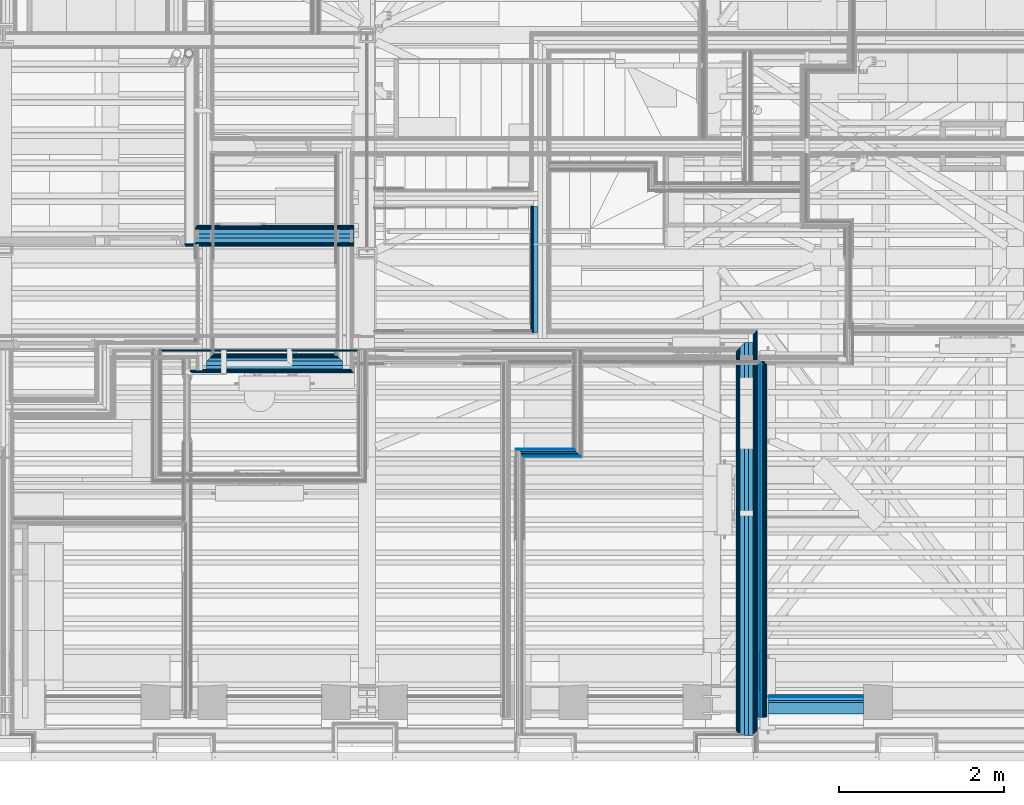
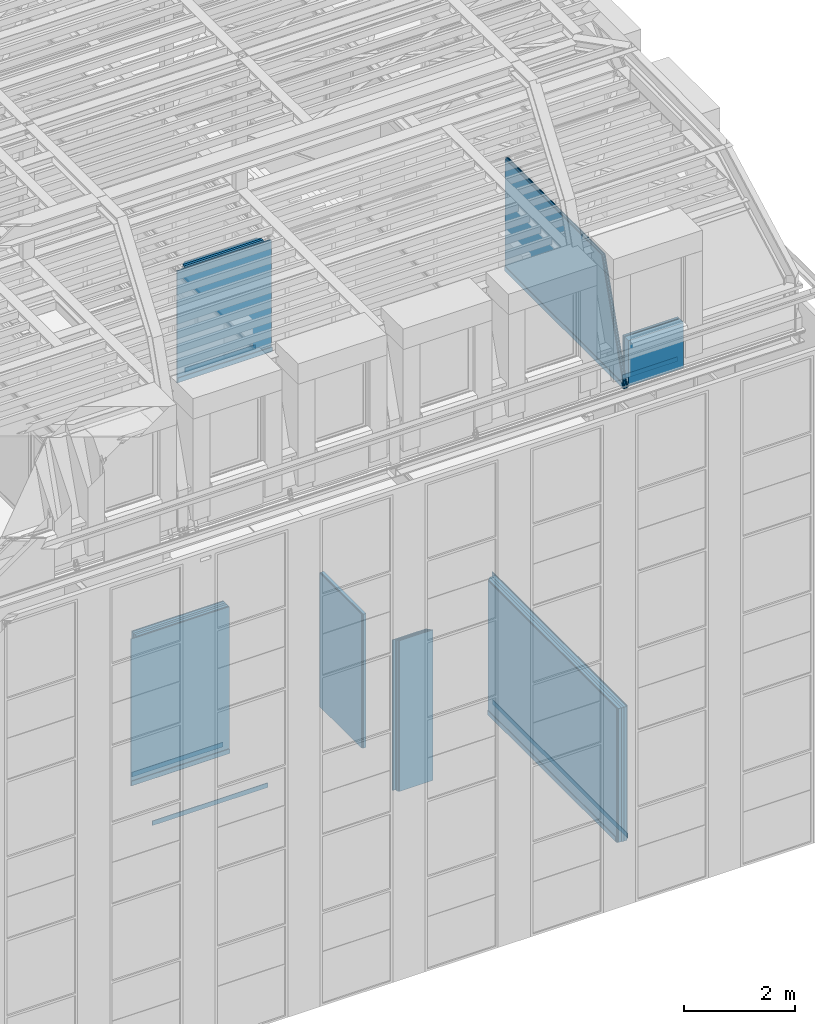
# One storey, part 51 of 183: 48 building element parts, 8 elements without a shape of their own.
"""IFC2X3 building model written with IfcOpenShell, lengths in metres."""

from ifc_helpers import new_model, entity, si_unit, converted_unit, derived_unit, money_unit, direction, frame, frame_2d, origin_with_axes, place, context, subcontext, project, spatial, polyline, rectangle, outline, extrude, clip, halfspace, material, type_object, element, aggregate, save


model = new_model("IFC2X3")

# Units and contexts
model_context = context("Model", 3, precision=1e-05, world=origin_with_axes(), true_north=direction((0.0, 1.0)))
body_context = subcontext(model_context, "Body", "Model", "MODEL_VIEW", scale=1.0)
ifc_project = project(units=[si_unit("LENGTHUNIT", "METRE"), si_unit("AREAUNIT", "SQUARE_METRE"), si_unit("VOLUMEUNIT", "CUBIC_METRE"), si_unit("ABSORBEDDOSEUNIT", "GRAY"), si_unit("AMOUNTOFSUBSTANCEUNIT", "MOLE"), si_unit("DOSEEQUIVALENTUNIT", "SIEVERT"), si_unit("ELECTRICCAPACITANCEUNIT", "FARAD"), si_unit("ELECTRICCHARGEUNIT", "COULOMB"), si_unit("ELECTRICCONDUCTANCEUNIT", "SIEMENS"), si_unit("ELECTRICCURRENTUNIT", "AMPERE"), si_unit("ELECTRICRESISTANCEUNIT", "OHM"), si_unit("ELECTRICVOLTAGEUNIT", "VOLT"), si_unit("ENERGYUNIT", "JOULE"), si_unit("FORCEUNIT", "NEWTON"), si_unit("FREQUENCYUNIT", "HERTZ"), si_unit("ILLUMINANCEUNIT", "LUX"), si_unit("INDUCTANCEUNIT", "HENRY"), si_unit("LUMINOUSFLUXUNIT", "LUMEN"), si_unit("LUMINOUSINTENSITYUNIT", "CANDELA"), si_unit("MAGNETICFLUXDENSITYUNIT", "TESLA"), si_unit("MAGNETICFLUXUNIT", "WEBER"), si_unit("MASSUNIT", "GRAM"), converted_unit("PLANEANGLEUNIT", "degree", entity("IfcReal", 0.0174532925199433), si_unit("PLANEANGLEUNIT", "RADIAN"), dimensions=[0, 0, 0, 0, 0, 0, 0]), si_unit("POWERUNIT", "WATT"), si_unit("PRESSUREUNIT", "PASCAL"), si_unit("RADIOACTIVITYUNIT", "BECQUEREL"), si_unit("SOLIDANGLEUNIT", "STERADIAN"), si_unit("THERMODYNAMICTEMPERATUREUNIT", "KELVIN"), si_unit("TIMEUNIT", "SECOND"), derived_unit("ACCELERATIONUNIT", [(si_unit("LENGTHUNIT", "METRE"), 1), (si_unit("TIMEUNIT", "SECOND"), -2)]), derived_unit("ANGULARVELOCITYUNIT", [(converted_unit("PLANEANGLEUNIT", "degree", entity("IfcReal", 0.0174532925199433), si_unit("PLANEANGLEUNIT", "RADIAN"), dimensions=[0, 0, 0, 0, 0, 0, 0]), 1), (si_unit("TIMEUNIT", "SECOND"), -1)]), derived_unit("CURVATUREUNIT", [(converted_unit("PLANEANGLEUNIT", "degree", entity("IfcReal", 0.0174532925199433), si_unit("PLANEANGLEUNIT", "RADIAN"), dimensions=[0, 0, 0, 0, 0, 0, 0]), 1), (si_unit("LENGTHUNIT", "METRE"), -1)]), derived_unit("DYNAMICVISCOSITYUNIT", [(si_unit("PRESSUREUNIT", "PASCAL"), 1), (si_unit("TIMEUNIT", "SECOND"), 1)]), derived_unit("HEATFLUXDENSITYUNIT", [(si_unit("POWERUNIT", "WATT"), 1), (si_unit("LENGTHUNIT", "METRE"), -2)]), derived_unit("HEATINGVALUEUNIT", [(si_unit("ENERGYUNIT", "JOULE"), 1), (si_unit("MASSUNIT", "GRAM"), -1)]), derived_unit("INTEGERCOUNTRATEUNIT", [(si_unit("TIMEUNIT", "SECOND"), -1)]), derived_unit("IONCONCENTRATIONUNIT", [(si_unit("MASSUNIT", "GRAM"), 1), (si_unit("VOLUMEUNIT", "CUBIC_METRE"), -1)]), derived_unit("ISOTHERMALMOISTURECAPACITYUNIT", [(si_unit("VOLUMEUNIT", "CUBIC_METRE"), 1), (si_unit("MASSUNIT", "GRAM"), -1)]), derived_unit("KINEMATICVISCOSITYUNIT", [(si_unit("AREAUNIT", "SQUARE_METRE"), 1), (si_unit("TIMEUNIT", "SECOND"), -1)]), derived_unit("LINEARFORCEUNIT", [(si_unit("FORCEUNIT", "NEWTON"), 1), (si_unit("LENGTHUNIT", "METRE"), -1)]), derived_unit("LINEARMOMENTUNIT", [(si_unit("FORCEUNIT", "NEWTON"), 1), (si_unit("LENGTHUNIT", "METRE"), -1)]), derived_unit("LINEARSTIFFNESSUNIT", [(si_unit("FORCEUNIT", "NEWTON"), 1), (si_unit("LENGTHUNIT", "METRE"), -1)]), derived_unit("LINEARVELOCITYUNIT", [(si_unit("LENGTHUNIT", "METRE"), 1), (si_unit("TIMEUNIT", "SECOND"), -1)]), derived_unit("LUMINOUSINTENSITYDISTRIBUTIONUNIT", [(si_unit("LUMINOUSINTENSITYUNIT", "CANDELA"), 1), (si_unit("LUMINOUSFLUXUNIT", "LUMEN"), -1)]), derived_unit("MASSDENSITYUNIT", [(si_unit("MASSUNIT", "GRAM"), 1), (si_unit("VOLUMEUNIT", "CUBIC_METRE"), -1)]), derived_unit("MASSFLOWRATEUNIT", [(si_unit("MASSUNIT", "GRAM"), 1), (si_unit("TIMEUNIT", "SECOND"), -1)]), derived_unit("MASSPERLENGTHUNIT", [(si_unit("MASSUNIT", "GRAM"), 1), (si_unit("LENGTHUNIT", "METRE"), -1)]), derived_unit("MODULUSOFELASTICITYUNIT", [(si_unit("FORCEUNIT", "NEWTON"), 1), (si_unit("AREAUNIT", "SQUARE_METRE"), -1)]), derived_unit("MODULUSOFLINEARSUBGRADEREACTIONUNIT", [(si_unit("FORCEUNIT", "NEWTON"), 1), (si_unit("LENGTHUNIT", "METRE"), -2)]), derived_unit("MODULUSOFROTATIONALSUBGRADEREACTIONUNIT", [(si_unit("FORCEUNIT", "NEWTON"), 1), (si_unit("LENGTHUNIT", "METRE"), 1)]), derived_unit("MODULUSOFSUBGRADEREACTIONUNIT", [(si_unit("FORCEUNIT", "NEWTON"), 1), (si_unit("VOLUMEUNIT", "CUBIC_METRE"), -1)]), derived_unit("MOISTUREDIFFUSIVITYUNIT", [(si_unit("VOLUMEUNIT", "CUBIC_METRE"), 1), (si_unit("TIMEUNIT", "SECOND"), -1)]), derived_unit("MOLECULARWEIGHTUNIT", [(si_unit("MASSUNIT", "GRAM"), 1), (si_unit("AMOUNTOFSUBSTANCEUNIT", "MOLE"), -1)]), derived_unit("PLANARFORCEUNIT", [(si_unit("FORCEUNIT", "NEWTON"), 1), (si_unit("LENGTHUNIT", "METRE"), -2)]), derived_unit("ROTATIONALFREQUENCYUNIT", [(si_unit("TIMEUNIT", "SECOND"), -1)]), derived_unit("ROTATIONALMASSUNIT", [(si_unit("MASSUNIT", "GRAM"), 1), (si_unit("LENGTHUNIT", "METRE"), 2)]), derived_unit("ROTATIONALSTIFFNESSUNIT", [(si_unit("FORCEUNIT", "NEWTON"), 1), (si_unit("LENGTHUNIT", "METRE"), 1), (converted_unit("PLANEANGLEUNIT", "degree", entity("IfcReal", 0.0174532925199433), si_unit("PLANEANGLEUNIT", "RADIAN"), dimensions=[0, 0, 0, 0, 0, 0, 0]), -1)]), derived_unit("SECTIONAREAINTEGRALUNIT", [(si_unit("LENGTHUNIT", "METRE"), 5)]), derived_unit("SECTIONMODULUSUNIT", [(si_unit("LENGTHUNIT", "METRE"), 3)]), derived_unit("SHEARMODULUSUNIT", [(si_unit("FORCEUNIT", "NEWTON"), 1), (si_unit("AREAUNIT", "SQUARE_METRE"), -1)]), derived_unit("SOUNDPOWERUNIT", [(si_unit("ENERGYUNIT", "JOULE"), 1), (si_unit("TIMEUNIT", "SECOND"), -1)]), derived_unit("SPECIFICHEATCAPACITYUNIT", [(si_unit("FORCEUNIT", "NEWTON"), 1), (si_unit("MASSUNIT", "GRAM"), -1), (si_unit("THERMODYNAMICTEMPERATUREUNIT", "KELVIN"), -1)]), derived_unit("TEMPERATUREGRADIENTUNIT", [(si_unit("THERMODYNAMICTEMPERATUREUNIT", "KELVIN"), 1), (si_unit("LENGTHUNIT", "METRE"), -1)]), derived_unit("THERMALADMITTANCEUNIT", [(si_unit("POWERUNIT", "WATT"), 1), (si_unit("AREAUNIT", "SQUARE_METRE"), -1), (si_unit("THERMODYNAMICTEMPERATUREUNIT", "KELVIN"), -1)]), derived_unit("THERMALCONDUCTANCEUNIT", [(si_unit("POWERUNIT", "WATT"), 1), (si_unit("LENGTHUNIT", "METRE"), -1), (si_unit("THERMODYNAMICTEMPERATUREUNIT", "KELVIN"), -1)]), derived_unit("THERMALEXPANSIONCOEFFICIENTUNIT", [(si_unit("THERMODYNAMICTEMPERATUREUNIT", "KELVIN"), -1)]), derived_unit("THERMALRESISTANCEUNIT", [(si_unit("AREAUNIT", "SQUARE_METRE"), 1), (si_unit("POWERUNIT", "WATT"), -1)]), derived_unit("THERMALTRANSMITTANCEUNIT", [(si_unit("POWERUNIT", "WATT"), 1), (si_unit("AREAUNIT", "SQUARE_METRE"), -1), (si_unit("THERMODYNAMICTEMPERATUREUNIT", "KELVIN"), -1)]), derived_unit("TORQUEUNIT", [(si_unit("FORCEUNIT", "NEWTON"), 1), (si_unit("LENGTHUNIT", "METRE"), 1)]), derived_unit("VAPORPERMEABILITYUNIT", [(si_unit("MASSUNIT", "GRAM"), 1), (si_unit("TIMEUNIT", "SECOND"), -1)]), derived_unit("VOLUMETRICFLOWRATEUNIT", [(si_unit("VOLUMEUNIT", "CUBIC_METRE"), 1), (si_unit("TIMEUNIT", "SECOND"), -1)]), derived_unit("WARPINGCONSTANTUNIT", [(si_unit("LENGTHUNIT", "METRE"), 6)]), derived_unit("WARPINGMOMENTUNIT", [(si_unit("FORCEUNIT", "NEWTON"), 1), (si_unit("LENGTHUNIT", "METRE"), 2)]), money_unit("GBP")], contexts=[model_context])

# Site, building, storey
site_placement = place(None, origin_with_axes())
site = spatial("IfcSite", under=ifc_project, at=site_placement, Name="Site", CompositionType="ELEMENT")
building_placement = place(site_placement, origin_with_axes())
building = spatial("IfcBuilding", under=site, at=building_placement, Name="Building01", CompositionType="ELEMENT")
storey_placement = place(building_placement, frame((0.0, 0.0, 5.15), z_axis=(0.0, 0.0, 1.0), x_axis=(1.0, 0.0, 0.0)))
storey = spatial("IfcBuildingStorey", under=building, at=storey_placement, Name="1F", CompositionType="ELEMENT", Elevation=5.15)

# Wall, building element parts
wall_type_1 = type_object("IfcWallType", Name="SHE_A-Walls_Type01c_Partywall_225mm_twin_tall", PredefinedType="NOTDEFINED")
wall_1_placement = place(storey_placement, frame((22.488, 5.068, 0.0), z_axis=(0.0, 0.0, 1.0), x_axis=(0.0, -1.0, 0.0)))
wall_1 = element("IfcWall", 1, at=wall_1_placement, inside=storey, type_object=wall_type_1, Name="1C", ObjectType="SHE_A-Walls_Type01c_Partywall_225mm_twin_tall")
ifc_material_1 = material(Name="A_BSUK_Walls_Timber")
placement_1 = place(wall_1_placement, origin_with_axes())
building_element_part_1 = element("IfcBuildingElementPart", 2, at=placement_1, material=ifc_material_1, Name="1", context=body_context, shape_type="SweptSolid", body=[
    extrude(outline(polyline([(4.72, -0.088), (0.088, -0.088), (0.103, -0.103), (4.72, -0.103), (4.72, -0.088)])), frame((0.0, 0.0, 0.015), z_axis=(0.0, 0.0, 1.0), x_axis=(1.0, 0.0, 0.0)), (0.0, 0.0, 1.0), 0.1),
])
ifc_material_2 = material(Name="A_BSUK_WallInternal_Finishes_Plasterboard")
building_element_part_2 = element("IfcBuildingElementPart", 3, at=placement_1, material=ifc_material_2, Name="2", context=body_context, shape_type="SweptSolid", body=[
    extrude(outline(polyline([(4.735, -0.073), (0.073, -0.073), (0.088, -0.088), (4.735, -0.088), (4.735, -0.073)])), origin_with_axes(), (0.0, 0.0, 1.0), 2.95),
])
building_element_part_3 = element("IfcBuildingElementPart", 4, at=placement_1, material=ifc_material_2, Name="3", context=body_context, shape_type="SweptSolid", body=[
    extrude(outline(polyline([(4.75, -0.058), (0.058, -0.058), (0.073, -0.073), (4.75, -0.073), (4.75, -0.058)])), origin_with_axes(), (0.0, 0.0, 1.0), 2.95),
])
ifc_material_3 = material(Name="Air Cavity")
building_element_part_4 = element("IfcBuildingElementPart", 5, at=placement_1, material=ifc_material_3, Name="4", context=body_context, shape_type="SweptSolid", body=[
    extrude(outline(polyline([(4.75, 0.0), (0.0, 0.0), (0.058, -0.058), (4.75, -0.058), (4.75, 0.0)])), origin_with_axes(), (0.0, 0.0, 1.0), 2.95),
])
ifc_material_4 = material(Name="A_BSUK_Insulation")
building_element_part_5 = element("IfcBuildingElementPart", 6, at=placement_1, material=ifc_material_4, Name="5", context=body_context, shape_type="SweptSolid", body=[
    extrude(rectangle(XDim=4.762, YDim=0.05, at=frame_2d((2.381, 0.025), x_axis=(-1.0, 0.0))), origin_with_axes(), (0.0, 0.0, 1.0), 2.95),
])
building_element_part_6 = element("IfcBuildingElementPart", 7, at=placement_1, material=ifc_material_3, Name="6", context=body_context, shape_type="SweptSolid", body=[
    extrude(rectangle(XDim=4.762, YDim=0.057, at=frame_2d((2.381, 0.0785), x_axis=(-1.0, 0.0))), origin_with_axes(), (0.0, 0.0, 1.0), 2.95),
])
building_element_part_7 = element("IfcBuildingElementPart", 8, at=placement_1, material=ifc_material_2, Name="7", context=body_context, shape_type="SweptSolid", body=[
    extrude(outline(polyline([(4.75, 0.122), (-0.122, 0.122), (-0.107, 0.107), (4.75, 0.107), (4.75, 0.122)])), origin_with_axes(), (0.0, 0.0, 1.0), 2.95),
])
building_element_part_8 = element("IfcBuildingElementPart", 9, at=placement_1, material=ifc_material_2, Name="8", context=body_context, shape_type="SweptSolid", body=[
    extrude(outline(polyline([(4.735, 0.137), (-0.137, 0.137), (-0.122, 0.122), (4.735, 0.122), (4.735, 0.137)])), origin_with_axes(), (0.0, 0.0, 1.0), 2.95),
])
building_element_part_9 = element("IfcBuildingElementPart", 10, at=placement_1, material=ifc_material_1, Name="9", context=body_context, shape_type="SweptSolid", body=[
    extrude(outline(polyline([(4.72, 0.152), (-0.152, 0.152), (-0.137, 0.137), (4.72, 0.137), (4.72, 0.152)])), frame((0.0, 0.0, 0.015), z_axis=(0.0, 0.0, 1.0), x_axis=(1.0, 0.0, 0.0)), (0.0, 0.0, 1.0), 0.1),
])
aggregate(wall_1, [building_element_part_1, building_element_part_2, building_element_part_3, building_element_part_4, building_element_part_5, building_element_part_6, building_element_part_7, building_element_part_8, building_element_part_9])

wall_type_2 = type_object("IfcWallType", Name="SHE_A-Walls_Type05a_Partition_95mm_tall", PredefinedType="NOTDEFINED")
wall_2_placement = place(storey_placement, frame((19.775, 3.72, 0.0), z_axis=(0.0, 0.0, 1.0), x_axis=(1.0, 0.0, 0.0)))
wall_2 = element("IfcWall", 11, at=wall_2_placement, inside=storey, type_object=wall_type_2, Name="5A", ObjectType="SHE_A-Walls_Type05a_Partition_95mm_tall")
placement_2 = place(wall_2_placement, origin_with_axes())
building_element_part_10 = element("IfcBuildingElementPart", 12, at=placement_2, material=ifc_material_2, Name="2", context=body_context, shape_type="SweptSolid", body=[
    extrude(outline(polyline([(0.723, -0.023), (0.023, -0.023), (0.035, -0.035), (0.735, -0.035), (0.723, -0.023)])), origin_with_axes(), (0.0, 0.0, 1.0), 3.32),
])
building_element_part_11 = element("IfcBuildingElementPart", 13, at=placement_2, material=ifc_material_3, Name="3", context=body_context, shape_type="SweptSolid", body=[
    extrude(outline(polyline([(0.7, 0.0), (0.0, 0.0), (0.023, -0.023), (0.723, -0.023), (0.7, 0.0)])), origin_with_axes(), (0.0, 0.0, 1.0), 3.32),
])
building_element_part_12 = element("IfcBuildingElementPart", 14, at=placement_2, material=ifc_material_4, Name="4", context=body_context, shape_type="SweptSolid", body=[
    extrude(outline(polyline([(0.675, 0.025), (0.0, 0.025), (0.0, 0.0), (0.7, 0.0), (0.675, 0.025)])), origin_with_axes(), (0.0, 0.0, 1.0), 3.32),
])
building_element_part_13 = element("IfcBuildingElementPart", 15, at=placement_2, material=ifc_material_3, Name="5", context=body_context, shape_type="SweptSolid", body=[
    extrude(outline(polyline([(0.652, 0.048), (0.0, 0.048), (0.0, 0.025), (0.675, 0.025), (0.652, 0.048)])), origin_with_axes(), (0.0, 0.0, 1.0), 3.32),
])
building_element_part_14 = element("IfcBuildingElementPart", 16, at=placement_2, material=ifc_material_2, Name="6", context=body_context, shape_type="SweptSolid", body=[
    extrude(outline(polyline([(0.64, 0.06), (-0.06, 0.06), (-0.048, 0.048), (0.652, 0.048), (0.64, 0.06)])), origin_with_axes(), (0.0, 0.0, 1.0), 3.32),
])
aggregate(wall_2, [building_element_part_10, building_element_part_11, building_element_part_12, building_element_part_13, building_element_part_14])

wall_3_placement = place(storey_placement, frame((17.75, 6.337, 0.0), z_axis=(0.0, 0.0, 1.0), x_axis=(-1.0, 0.0, 0.0)))
wall_3 = element("IfcWall", 17, at=wall_3_placement, inside=storey, type_object=wall_type_1, Name="1C", ObjectType="SHE_A-Walls_Type01c_Partywall_225mm_twin_tall")
placement_3 = place(wall_3_placement, origin_with_axes())
building_element_part_15 = element("IfcBuildingElementPart", 18, at=placement_3, material=ifc_material_1, Name="1", context=body_context, shape_type="SweptSolid", body=[
    extrude(rectangle(XDim=1.905, YDim=0.015, at=frame_2d((0.9525, -0.1455), x_axis=(-1.0, 0.0))), frame((0.0, 0.0, 0.015), z_axis=(0.0, 0.0, 1.0), x_axis=(1.0, 0.0, 0.0)), (0.0, 0.0, 1.0), 0.1),
])
building_element_part_16 = element("IfcBuildingElementPart", 19, at=placement_3, material=ifc_material_2, Name="2", context=body_context, shape_type="SweptSolid", body=[
    extrude(outline(polyline([(1.92, -0.123), (0.0, -0.123), (0.0, -0.138), (1.905, -0.138), (1.92, -0.123)])), origin_with_axes(), (0.0, 0.0, 1.0), 3.24),
])
building_element_part_17 = element("IfcBuildingElementPart", 20, at=placement_3, material=ifc_material_2, Name="3", context=body_context, shape_type="SweptSolid", body=[
    extrude(rectangle(XDim=1.92, YDim=0.015, at=frame_2d((0.96, -0.1155), x_axis=(-1.0, 0.0))), origin_with_axes(), (0.0, 0.0, 1.0), 3.24),
])
building_element_part_18 = element("IfcBuildingElementPart", 21, at=placement_3, material=ifc_material_3, Name="4", context=body_context, shape_type="SweptSolid", body=[
    extrude(rectangle(XDim=1.92, YDim=0.058, at=frame_2d((0.96, -0.079), x_axis=(-1.0, 0.0))), origin_with_axes(), (0.0, 0.0, 1.0), 3.24),
])
building_element_part_19 = element("IfcBuildingElementPart", 22, at=placement_3, material=ifc_material_4, Name="5", context=body_context, shape_type="SweptSolid", body=[
    extrude(rectangle(XDim=1.92, YDim=0.05, at=frame_2d((0.96, -0.025), x_axis=(-1.0, 0.0))), origin_with_axes(), (0.0, 0.0, 1.0), 3.24),
])
building_element_part_20 = element("IfcBuildingElementPart", 23, at=placement_3, material=ifc_material_3, Name="6", context=body_context, shape_type="SweptSolid", body=[
    extrude(rectangle(XDim=1.92, YDim=0.057, at=frame_2d((0.96, 0.0285), x_axis=(-1.0, 0.0))), origin_with_axes(), (0.0, 0.0, 1.0), 3.24),
])
building_element_part_21 = element("IfcBuildingElementPart", 24, at=placement_3, material=ifc_material_2, Name="7", context=body_context, shape_type="SweptSolid", body=[
    extrude(rectangle(XDim=1.92, YDim=0.015, at=frame_2d((0.96, 0.0645), x_axis=(-1.0, 0.0))), origin_with_axes(), (0.0, 0.0, 1.0), 3.24),
])
building_element_part_22 = element("IfcBuildingElementPart", 25, at=placement_3, material=ifc_material_2, Name="8", context=body_context, shape_type="SweptSolid", body=[
    extrude(rectangle(XDim=2.05, YDim=0.015, at=frame_2d((1.025, 0.0795), x_axis=(-1.0, 0.0))), origin_with_axes(), (0.0, 0.0, 1.0), 3.24),
])
building_element_part_23 = element("IfcBuildingElementPart", 26, at=placement_3, material=ifc_material_1, Name="9", context=body_context, shape_type="SweptSolid", body=[
    extrude(rectangle(XDim=2.05, YDim=0.015, at=frame_2d((1.025, 0.0945), x_axis=(-1.0, 0.0))), frame((0.0, 0.0, 0.015), z_axis=(0.0, 0.0, 1.0), x_axis=(1.0, 0.0, 0.0)), (0.0, 0.0, 1.0), 0.1),
])
aggregate(wall_3, [building_element_part_15, building_element_part_16, building_element_part_17, building_element_part_18, building_element_part_19, building_element_part_20, building_element_part_21, building_element_part_22, building_element_part_23])

wall_4_placement = place(storey_placement, frame((19.985661, 8.732, 0.0), z_axis=(0.0, 0.0, 1.0), x_axis=(0.0, -1.0, 0.0)))
wall_4 = element("IfcWall", 27, at=wall_4_placement, inside=storey, type_object=wall_type_1, Name="1C", ObjectType="SHE_A-Walls_Type01c_Partywall_225mm_twin_tall")
placement_4 = place(wall_4_placement, origin_with_axes())
building_element_part_24 = element("IfcBuildingElementPart", 28, at=placement_4, material=ifc_material_2, Name="5", context=body_context, shape_type="SweptSolid", body=[
    extrude(rectangle(XDim=1.515, YDim=0.015, at=frame_2d((2.7695, -0.0805), x_axis=(-1.0, 0.0))), origin_with_axes(), (0.0, 0.0, 1.0), 2.95),
])
building_element_part_25 = element("IfcBuildingElementPart", 29, at=placement_4, material=ifc_material_2, Name="8", context=body_context, shape_type="SweptSolid", body=[
    extrude(rectangle(XDim=1.53, YDim=0.015, at=frame_2d((2.777, -0.0655), x_axis=(-1.0, 0.0))), origin_with_axes(), (0.0, 0.0, 1.0), 2.95),
])
building_element_part_26 = element("IfcBuildingElementPart", 30, at=placement_4, material=ifc_material_3, Name="9", context=body_context, shape_type="SweptSolid", body=[
    extrude(rectangle(XDim=1.53, YDim=0.058, at=frame_2d((2.777, -0.029), x_axis=(-1.0, 0.0))), origin_with_axes(), (0.0, 0.0, 1.0), 2.95),
])
aggregate(wall_4, [building_element_part_24, building_element_part_25, building_element_part_26])

# Wall, building element part
wall_type_3 = type_object("IfcWallType", Name="SHE_A-Walls_Type03a_BlockworkWall_170mm", PredefinedType="NOTDEFINED")
wall_5_placement = place(storey_placement, frame((9.06, 4.995, 0.0), z_axis=(0.0, 0.0, 1.0), x_axis=(1.0, 0.0, 0.0)))
wall_5 = element("IfcWall", 31, at=wall_5_placement, inside=storey, type_object=wall_type_3, Name="4B", ObjectType="SHE_A-Walls_Type03a_BlockworkWall_170mm")
building_element_part_27_placement = place(wall_5_placement, origin_with_axes())
building_element_part_27 = element("IfcBuildingElementPart", 32, at=building_element_part_27_placement, material=ifc_material_1, Name="5", context=body_context, shape_type="SweptSolid", body=[
    extrude(rectangle(XDim=2.4, YDim=0.015, at=frame_2d((7.5475, -0.0225), x_axis=(-1.0, 0.0))), frame((0.0, 0.0, 0.015), z_axis=(0.0, 0.0, 1.0), x_axis=(1.0, 0.0, 0.0)), (0.0, 0.0, 1.0), 0.1),
])
aggregate(wall_5, [building_element_part_27])

# Wall, building element parts
wall_type_4 = type_object("IfcWallType", Name="SHE_A-Walls_Type05b_Partition_80mm", PredefinedType="NOTDEFINED")
wall_6_placement = place(storey_placement, frame((22.687024, 4.844, 9.78), z_axis=(0.0, 0.0, 1.0), x_axis=(0.0, -1.0, 0.0)))
wall_6 = element("IfcWall", 33, at=wall_6_placement, inside=storey, type_object=wall_type_4, Name="5B", ObjectType="SHE_A-Walls_Type05b_Partition_80mm")
placement_5 = place(wall_6_placement, origin_with_axes())
building_element_part_28 = element("IfcBuildingElementPart", 34, at=placement_5, material=ifc_material_1, Name="1", context=body_context, shape_type="Clipping", body=[
    clip(extrude(rectangle(XDim=4.27327, YDim=0.015, at=frame_2d((2.178635, -0.0345), x_axis=(-1.0, 0.0))), frame((0.0, 0.0, 0.015), z_axis=(0.0, 0.0, 1.0), x_axis=(1.0, 0.0, 0.0)), (0.0, 0.0, 1.0), 0.1), halfspace(frame((3.907606, 0.0, 1.269658), z_axis=(-0.95105652, 0.0, -0.30901699), x_axis=(0.0, -1.0, 0.0)), True)),
])
building_element_part_29 = element("IfcBuildingElementPart", 35, at=placement_5, material=ifc_material_2, Name="2", context=body_context, shape_type="Clipping", body=[
    clip(extrude(rectangle(XDim=4.293143, YDim=0.015, at=frame_2d((2.173572, -0.0195), x_axis=(-1.0, 0.0))), origin_with_axes(), (0.0, 0.0, 1.0), 2.468), halfspace(frame((3.907606, 0.0, 1.269658), z_axis=(-0.95105652, 0.0, -0.30901699), x_axis=(0.0, -1.0, 0.0)), True)),
])
building_element_part_30 = element("IfcBuildingElementPart", 36, at=placement_5, material=ifc_material_3, Name="3", context=body_context, shape_type="Clipping", body=[
    clip(extrude(rectangle(XDim=4.293143, YDim=0.012, at=frame_2d((2.173572, -0.006), x_axis=(-1.0, 0.0))), origin_with_axes(), (0.0, 0.0, 1.0), 2.468), halfspace(frame((3.907606, 0.0, 1.269658), z_axis=(-0.95105652, 0.0, -0.30901699), x_axis=(0.0, -1.0, 0.0)), True)),
])
building_element_part_31 = element("IfcBuildingElementPart", 37, at=placement_5, material=ifc_material_4, Name="4", context=body_context, shape_type="Clipping", body=[
    clip(extrude(rectangle(XDim=4.320143, YDim=0.025, at=frame_2d((2.160072, 0.0125), x_axis=(-1.0, 0.0))), origin_with_axes(), (0.0, 0.0, 1.0), 2.468), halfspace(frame((3.907606, 0.0, 1.269658), z_axis=(-0.95105652, 0.0, -0.30901699), x_axis=(0.0, -1.0, 0.0)), True)),
])
building_element_part_32 = element("IfcBuildingElementPart", 38, at=placement_5, material=ifc_material_3, Name="5", context=body_context, shape_type="Clipping", body=[
    clip(extrude(rectangle(XDim=4.320143, YDim=0.013, at=frame_2d((2.160072, 0.0315), x_axis=(-1.0, 0.0))), origin_with_axes(), (0.0, 0.0, 1.0), 2.468), halfspace(frame((3.907606, 0.0, 1.269658), z_axis=(-0.95105652, 0.0, -0.30901699), x_axis=(0.0, -1.0, 0.0)), True)),
])
building_element_part_33 = element("IfcBuildingElementPart", 39, at=placement_5, material=ifc_material_2, Name="6", context=body_context, shape_type="Clipping", body=[
    clip(extrude(rectangle(XDim=4.308143, YDim=0.015, at=frame_2d((2.166072, 0.0455), x_axis=(-1.0, 0.0))), origin_with_axes(), (0.0, 0.0, 1.0), 2.468), halfspace(frame((3.907606, 0.0, 1.269658), z_axis=(-0.95105652, 0.0, -0.30901699), x_axis=(0.0, -1.0, 0.0)), True)),
])
building_element_part_34 = element("IfcBuildingElementPart", 40, at=placement_5, material=ifc_material_1, Name="7", context=body_context, shape_type="Clipping", body=[
    clip(extrude(rectangle(XDim=4.28827, YDim=0.015, at=frame_2d((2.171135, 0.0605), x_axis=(-1.0, 0.0))), frame((0.0, 0.0, 0.015), z_axis=(0.0, 0.0, 1.0), x_axis=(1.0, 0.0, 0.0)), (0.0, 0.0, 1.0), 0.1), halfspace(frame((3.907606, 0.0, 1.269658), z_axis=(-0.95105652, 0.0, -0.30901699), x_axis=(0.0, -1.0, 0.0)), True)),
])
aggregate(wall_6, [building_element_part_28, building_element_part_29, building_element_part_30, building_element_part_31, building_element_part_32, building_element_part_33, building_element_part_34])

wall_type_5 = type_object("IfcWallType", Name="SHE_A-Walls_Type06e_ExternalWallPenthouse_280mm", PredefinedType="NOTDEFINED")
wall_7_placement = place(storey_placement, frame((23.929976, 0.565, 9.78), z_axis=(0.0, 0.0, 1.0), x_axis=(-1.0, 0.0, 0.0)))
wall_7 = element("IfcWall", 41, at=wall_7_placement, inside=storey, type_object=wall_type_5, Name="6E", ObjectType="SHE_A-Walls_Type06e_ExternalWallPenthouse_280mm")
placement_6 = place(wall_7_placement, origin_with_axes())
building_element_part_35 = element("IfcBuildingElementPart", 42, at=placement_6, material=ifc_material_1, Name="1", context=body_context, shape_type="SweptSolid", body=[
    extrude(rectangle(XDim=1.149951, YDim=0.015, at=frame_2d((0.574976, -0.2225), x_axis=(-1.0, 0.0))), frame((0.0, 0.0, 0.015), z_axis=(0.0, 0.0, 1.0), x_axis=(1.0, 0.0, 0.0)), (0.0, 0.0, 1.0), 0.1),
])
building_element_part_36 = element("IfcBuildingElementPart", 43, at=placement_6, material=ifc_material_2, Name="2", context=body_context, shape_type="SweptSolid", body=[
    extrude(rectangle(XDim=1.149951, YDim=0.01, at=frame_2d((0.574976, -0.21), x_axis=(-1.0, 0.0))), origin_with_axes(), (0.0, 0.0, 1.0), 1.0),
])
building_element_part_37 = element("IfcBuildingElementPart", 44, at=placement_6, material=ifc_material_4, Name="3", context=body_context, shape_type="SweptSolid", body=[
    extrude(rectangle(XDim=1.149951, YDim=0.04, at=frame_2d((0.574976, -0.185), x_axis=(-1.0, 0.0))), origin_with_axes(), (0.0, 0.0, 1.0), 1.0),
])
building_element_part_38 = element("IfcBuildingElementPart", 45, at=placement_6, material=ifc_material_3, Name="4", context=body_context, shape_type="SweptSolid", body=[
    extrude(rectangle(XDim=1.149951, YDim=0.025, at=frame_2d((0.574976, -0.1525), x_axis=(-1.0, 0.0))), origin_with_axes(), (0.0, 0.0, 1.0), 1.0),
])
building_element_part_39 = element("IfcBuildingElementPart", 46, at=placement_6, material=ifc_material_4, Name="5", context=body_context, shape_type="SweptSolid", body=[
    extrude(rectangle(XDim=1.149951, YDim=0.14, at=frame_2d((0.574976, -0.07), x_axis=(-1.0, 0.0))), origin_with_axes(), (0.0, 0.0, 1.0), 1.0),
])
aggregate(wall_7, [building_element_part_35, building_element_part_36, building_element_part_37, building_element_part_38, building_element_part_39])

wall_type_6 = type_object("IfcWallType", Name="SHE_A-Walls_Type01d_Partywall_200mm_twin", PredefinedType="NOTDEFINED")
wall_8_placement = place(storey_placement, frame((17.61344, 4.842, 9.78), z_axis=(0.0, 0.0, 1.0), x_axis=(-1.0, 0.0, 0.0)))
wall_8 = element("IfcWall", 47, at=wall_8_placement, inside=storey, type_object=wall_type_6, Name="1D", ObjectType="SHE_A-Walls_Type01d_Partywall_200mm_twin")
placement_7 = place(wall_8_placement, origin_with_axes())
building_element_part_40 = element("IfcBuildingElementPart", 48, at=placement_7, material=ifc_material_1, Name="1", context=body_context, shape_type="SweptSolid", body=[
    extrude(outline(polyline([(1.56, -0.075), (0.075, -0.075), (0.09, -0.09), (1.56, -0.09), (1.56, -0.075)])), frame((0.0, 0.0, 0.015), z_axis=(0.0, 0.0, 1.0), x_axis=(1.0, 0.0, 0.0)), (0.0, 0.0, 1.0), 0.1),
])
building_element_part_41 = element("IfcBuildingElementPart", 49, at=placement_7, material=ifc_material_2, Name="2", context=body_context, shape_type="SweptSolid", body=[
    extrude(outline(polyline([(1.59, -0.06), (0.06, -0.06), (0.075, -0.075), (1.575, -0.075), (1.59, -0.06)])), origin_with_axes(), (0.0, 0.0, 1.0), 2.468),
])
building_element_part_42 = element("IfcBuildingElementPart", 50, at=placement_7, material=ifc_material_2, Name="3", context=body_context, shape_type="SweptSolid", body=[
    extrude(outline(polyline([(1.605, -0.045), (0.045, -0.045), (0.06, -0.06), (1.59, -0.06), (1.605, -0.045)])), origin_with_axes(), (0.0, 0.0, 1.0), 2.468),
])
building_element_part_43 = element("IfcBuildingElementPart", 51, at=placement_7, material=ifc_material_3, Name="4", context=body_context, shape_type="SweptSolid", body=[
    extrude(outline(polyline([(1.65, 0.0), (0.0, 0.0), (0.045, -0.045), (1.605, -0.045), (1.65, 0.0)])), origin_with_axes(), (0.0, 0.0, 1.0), 2.468),
])
building_element_part_44 = element("IfcBuildingElementPart", 52, at=placement_7, material=ifc_material_4, Name="5", context=body_context, shape_type="SweptSolid", body=[
    extrude(rectangle(XDim=1.65, YDim=0.05, at=frame_2d((0.825, 0.025), x_axis=(-1.0, 0.0))), origin_with_axes(), (0.0, 0.0, 1.0), 2.468),
])
building_element_part_45 = element("IfcBuildingElementPart", 53, at=placement_7, material=ifc_material_3, Name="6", context=body_context, shape_type="SweptSolid", body=[
    extrude(rectangle(XDim=1.65, YDim=0.045, at=frame_2d((0.825, 0.0725), x_axis=(-1.0, 0.0))), origin_with_axes(), (0.0, 0.0, 1.0), 2.468),
])
building_element_part_46 = element("IfcBuildingElementPart", 54, at=placement_7, material=ifc_material_2, Name="7", context=body_context, shape_type="SweptSolid", body=[
    extrude(outline(polyline([(1.745, 0.11), (-0.11, 0.11), (-0.095, 0.095), (1.745, 0.095), (1.745, 0.11)])), origin_with_axes(), (0.0, 0.0, 1.0), 2.468),
])
building_element_part_47 = element("IfcBuildingElementPart", 55, at=placement_7, material=ifc_material_2, Name="8", context=body_context, shape_type="SweptSolid", body=[
    extrude(outline(polyline([(1.84344, 0.125), (-0.125, 0.125), (-0.11, 0.11), (1.84344, 0.11), (1.84344, 0.125)])), origin_with_axes(), (0.0, 0.0, 1.0), 2.468),
])
building_element_part_48 = element("IfcBuildingElementPart", 56, at=placement_7, material=ifc_material_1, Name="9", context=body_context, shape_type="SweptSolid", body=[
    extrude(outline(polyline([(1.82844, 0.14), (-0.14, 0.14), (-0.125, 0.125), (1.84344, 0.125), (1.82844, 0.14)])), frame((0.0, 0.0, 0.015), z_axis=(0.0, 0.0, 1.0), x_axis=(1.0, 0.0, 0.0)), (0.0, 0.0, 1.0), 0.1),
])
aggregate(wall_8, [building_element_part_40, building_element_part_41, building_element_part_42, building_element_part_43, building_element_part_44, building_element_part_45, building_element_part_46, building_element_part_47, building_element_part_48])

save(model, "model.ifc")
